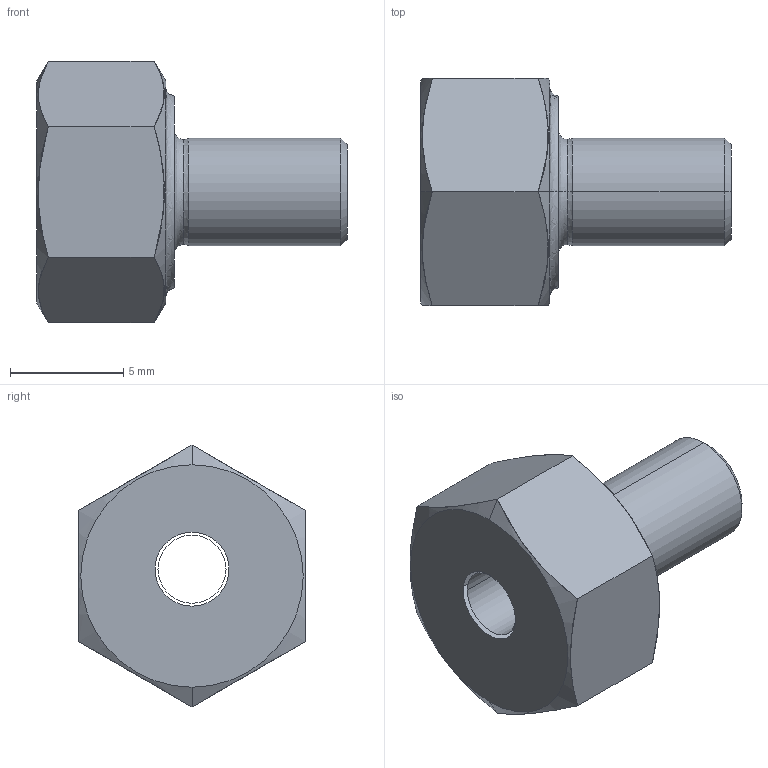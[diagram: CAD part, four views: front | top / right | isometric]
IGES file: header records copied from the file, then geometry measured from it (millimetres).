
Start section: 3D InterOp IGES (v. 2019 1.0.2), Spatial Corp. Copyright (c) 1999-2017.
Global section: file name: BX1SSM.igs; native system: Spatial Corp.; preprocessor: 3D InterOp GENERIC/IGES 3.0; author: Noname; organization: Noname; date: 20200930.105801; units: millimetre
Bounding box: 13.68 x 10 x 11.55 mm (x, y, z)
Surface area: 580.2 mm2 (no closed solid volume)
Topology: 0 solids, 0 shells, 30 faces, 136 edges, 136 vertices
Faces by surface type: revolution 20, extrusion 10
